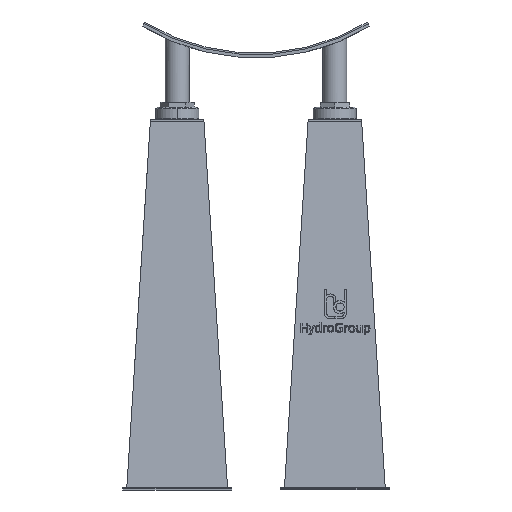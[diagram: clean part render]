
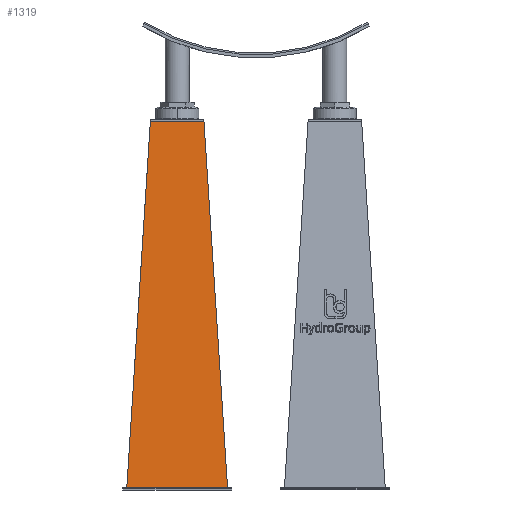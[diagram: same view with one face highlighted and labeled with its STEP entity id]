
A CAD part, front view. The second image highlights one B-rep face of the part: STEP entity #1319.
In plain terms, the highlighted planar face has unit normal (0, -0.998, 0.064).
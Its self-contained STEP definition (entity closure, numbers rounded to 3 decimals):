
#1319=ADVANCED_FACE('',(#2650),#2651,.F.);
#2650=FACE_OUTER_BOUND('',#4074,.T.);
#2651=PLANE('',#4075);
#4074=EDGE_LOOP('',(#8117,#8118,#8119,#8120));
#4075=AXIS2_PLACEMENT_3D('',#8121,#8122,#8123);
#8117=ORIENTED_EDGE('',*,*,#9750,.T.);
#8118=ORIENTED_EDGE('',*,*,#9766,.F.);
#8119=ORIENTED_EDGE('',*,*,#9776,.F.);
#8120=ORIENTED_EDGE('',*,*,#9504,.T.);
#8121=CARTESIAN_POINT('',(205.751,-11.661,361.687));
#8122=DIRECTION('',(0.,0.998,-0.064));
#8123=DIRECTION('',(1.0,0.,0.));
#9504=EDGE_CURVE('',#11524,#11522,#11525,.F.);
#9750=EDGE_CURVE('',#11522,#11848,#11850,.T.);
#9766=EDGE_CURVE('',#11870,#11848,#11872,.T.);
#9776=EDGE_CURVE('',#11524,#11870,#11885,.T.);
#11522=VERTEX_POINT('',#15131);
#11524=VERTEX_POINT('',#15134);
#11525=LINE('',#15135,#15136);
#11848=VERTEX_POINT('',#15721);
#11850=LINE('',#15724,#15725);
#11870=VERTEX_POINT('',#15754);
#11872=LINE('',#15757,#15758);
#11885=LINE('',#15777,#15778);
#15131=CARTESIAN_POINT('',(12.938,-71.48,-567.506));
#15134=CARTESIAN_POINT('',(72.745,-11.673,361.494));
#15135=CARTESIAN_POINT('',(73.037,-11.381,366.028));
#15136=VECTOR('',#17679,1.);
#15721=CARTESIAN_POINT('',(268.564,-71.48,-567.506));
#15724=CARTESIAN_POINT('',(173.251,-71.48,-567.506));
#15725=VECTOR('',#17855,1.);
#15754=CARTESIAN_POINT('',(208.758,-11.673,361.494));
#15757=CARTESIAN_POINT('',(208.466,-11.381,366.028));
#15758=VECTOR('',#17866,1.);
#15777=CARTESIAN_POINT('',(173.251,-11.673,361.494));
#15778=VECTOR('',#17873,1.);
#17679=DIRECTION('',(0.064,0.064,0.996));
#17855=DIRECTION('',(1.0,0.,0.));
#17866=DIRECTION('',(0.064,-0.064,-0.996));
#17873=DIRECTION('',(1.0,0.,0.));
